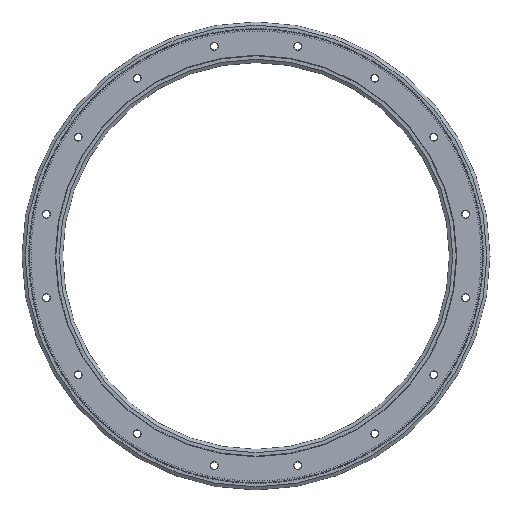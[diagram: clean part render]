
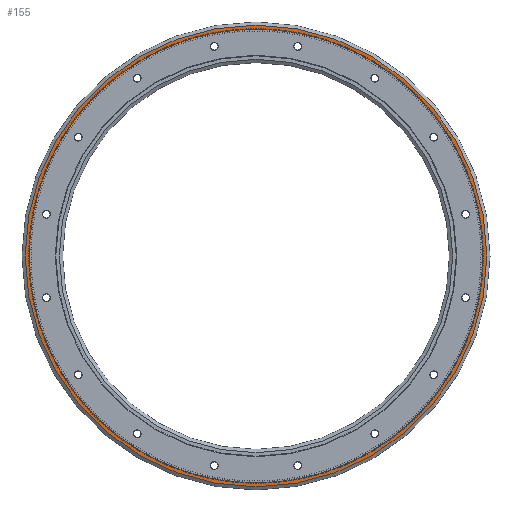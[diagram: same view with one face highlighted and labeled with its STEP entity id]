
A CAD part, front view. The second image highlights one B-rep face of the part: STEP entity #155.
In plain terms, the highlighted planar face has unit normal (0, -1, 0).
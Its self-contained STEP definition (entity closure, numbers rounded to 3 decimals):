
#155 = ADVANCED_FACE( '', ( #3802, #3803 ), #3804, .T. );
#3802 = FACE_OUTER_BOUND( '', #10836, .T. );
#3803 = FACE_BOUND( '', #10837, .T. );
#3804 = PLANE( '', #10838 );
#10836 = EDGE_LOOP( '', ( #19747 ) );
#10837 = EDGE_LOOP( '', ( #19748 ) );
#10838 = AXIS2_PLACEMENT_3D( '', #19749, #19750, #19751 );
#19747 = ORIENTED_EDGE( '', *, *, #48023, .T. );
#19748 = ORIENTED_EDGE( '', *, *, #48024, .F. );
#19749 = CARTESIAN_POINT( '', ( 420.95, 15., 0. ) );
#19750 = DIRECTION( '', ( 0., -1., 0. ) );
#19751 = DIRECTION( '', ( 0., 0., -1. ) );
#48023 = EDGE_CURVE( '', #58934, #58934, #58935, .T. );
#48024 = EDGE_CURVE( '', #58936, #58936, #58937, .T. );
#58934 = VERTEX_POINT( '', #74945 );
#58935 = CIRCLE( '', #74946, 431.443 );
#58936 = VERTEX_POINT( '', #74947 );
#58937 = CIRCLE( '', #74948, 420.95 );
#74945 = CARTESIAN_POINT( '', ( 0., 15., -431.443 ) );
#74946 = AXIS2_PLACEMENT_3D( '', #96597, #96598, #96599 );
#74947 = CARTESIAN_POINT( '', ( 0., 15., -420.95 ) );
#74948 = AXIS2_PLACEMENT_3D( '', #96600, #96601, #96602 );
#96597 = CARTESIAN_POINT( '', ( 0., 15., 0. ) );
#96598 = DIRECTION( '', ( 0., -1., 0. ) );
#96599 = DIRECTION( '', ( 0., 0., -1. ) );
#96600 = CARTESIAN_POINT( '', ( 0., 15., 0. ) );
#96601 = DIRECTION( '', ( 0., -1., 0. ) );
#96602 = DIRECTION( '', ( 0., 0., -1. ) );
